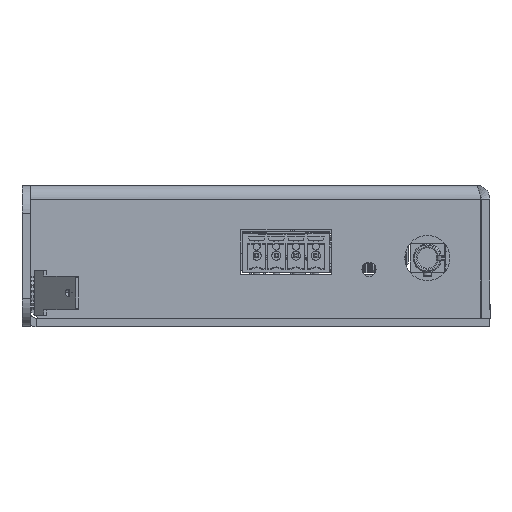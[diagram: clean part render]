
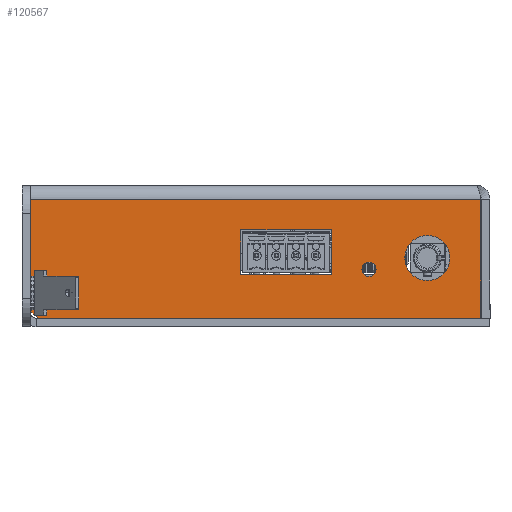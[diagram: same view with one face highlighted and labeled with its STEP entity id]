
A CAD part, left-side view. The second image highlights one B-rep face of the part: STEP entity #120567.
In plain terms, the highlighted planar face has unit normal (-1, 0, 0) as drawn and (0, 1, 0) by its records, which use the part's own axes.
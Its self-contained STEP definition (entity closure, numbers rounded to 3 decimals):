
#18 = CARTESIAN_POINT ( 'NONE',  ( 26.6, 137.7, -15.85 ) ) ;
#74 = CARTESIAN_POINT ( 'NONE',  ( 0.1, 137.7, -2.5 ) ) ;
#329 = CIRCLE ( 'NONE', #132392, 4. ) ;
#406 = CARTESIAN_POINT ( 'NONE',  ( 26.6, 137.7, -7.9 ) ) ;
#722 = CARTESIAN_POINT ( 'NONE',  ( 19.961, 137.7, -16.175 ) ) ;
#1854 = DIRECTION ( 'NONE',  ( 0., 0., 1. ) ) ;
#1878 = AXIS2_PLACEMENT_3D ( 'NONE', #100271, #39074, #110528 ) ;
#2186 = EDGE_CURVE ( 'NONE', #61893, #102152, #14608, .T. ) ;
#2773 = EDGE_CURVE ( 'NONE', #73926, #127029, #57538, .T. ) ;
#4263 = EDGE_LOOP ( 'NONE', ( #87781, #36714, #35913, #47656, #63012 ) ) ;
#5107 = CARTESIAN_POINT ( 'NONE',  ( 80., 137.7, -23.6 ) ) ;
#5878 = LINE ( 'NONE', #28440, #111282 ) ;
#6617 = CARTESIAN_POINT ( 'NONE',  ( 26.6, 137.7, -7.9 ) ) ;
#7387 = ORIENTED_EDGE ( 'NONE', *, *, #125261, .F. ) ;
#7440 = PLANE ( 'NONE',  #76570 ) ;
#8293 = DIRECTION ( 'NONE',  ( 0., 0., -1. ) ) ;
#11427 = AXIS2_PLACEMENT_3D ( 'NONE', #124158, #62978, #1854 ) ;
#13367 = EDGE_CURVE ( 'NONE', #122886, #73926, #63052, .T. ) ;
#14608 = CIRCLE ( 'NONE', #11427, 1.25 ) ;
#14937 = DIRECTION ( 'NONE',  ( 0., 0., -1. ) ) ;
#15340 = VERTEX_POINT ( 'NONE', #45657 ) ;
#23904 = CARTESIAN_POINT ( 'NONE',  ( 0.1, 137.7, -23.6 ) ) ;
#24259 = ORIENTED_EDGE ( 'NONE', *, *, #126982, .F. ) ;
#26519 = CIRCLE ( 'NONE', #76950, 2. ) ;
#28022 = DIRECTION ( 'NONE',  ( 0., -1., 0. ) ) ;
#28440 = CARTESIAN_POINT ( 'NONE',  ( 42.7, 137.7, -7.9 ) ) ;
#29787 = CARTESIAN_POINT ( 'NONE',  ( 26.6, 137.7, -15.85 ) ) ;
#30101 = DIRECTION ( 'NONE',  ( 0., 1., 0. ) ) ;
#30769 = CARTESIAN_POINT ( 'NONE',  ( 42.7, 137.7, -15.85 ) ) ;
#32556 = AXIS2_PLACEMENT_3D ( 'NONE', #89435, #30101, #101501 ) ;
#32634 = CARTESIAN_POINT ( 'NONE',  ( 78., 137.7, -23.6 ) ) ;
#34390 = ORIENTED_EDGE ( 'NONE', *, *, #109784, .F. ) ;
#35773 = VECTOR ( 'NONE', #121096, 1000. ) ;
#35913 = ORIENTED_EDGE ( 'NONE', *, *, #54409, .T. ) ;
#36447 = EDGE_CURVE ( 'NONE', #120412, #63349, #329, .T. ) ;
#36698 = ORIENTED_EDGE ( 'NONE', *, *, #2773, .F. ) ;
#36714 = ORIENTED_EDGE ( 'NONE', *, *, #54604, .T. ) ;
#37637 = FACE_OUTER_BOUND ( 'NONE', #4263, .T. ) ;
#39074 = DIRECTION ( 'NONE',  ( 0., 1., 0. ) ) ;
#39201 = EDGE_LOOP ( 'NONE', ( #34390, #100213 ) ) ;
#40811 = FACE_BOUND ( 'NONE', #109156, .T. ) ;
#43021 = CARTESIAN_POINT ( 'NONE',  ( 9.6, 137.7, -12.9 ) ) ;
#45244 = DIRECTION ( 'NONE',  ( -1., 0., 0. ) ) ;
#45657 = CARTESIAN_POINT ( 'NONE',  ( 80., 137.7, -21.6 ) ) ;
#45796 = CARTESIAN_POINT ( 'NONE',  ( 9.6, 137.7, -16.9 ) ) ;
#47656 = ORIENTED_EDGE ( 'NONE', *, *, #60441, .F. ) ;
#48040 = CARTESIAN_POINT ( 'NONE',  ( 42.7, 137.7, -7.9 ) ) ;
#48335 = CIRCLE ( 'NONE', #1878, 4. ) ;
#48980 = VERTEX_POINT ( 'NONE', #63949 ) ;
#52045 = VECTOR ( 'NONE', #45244, 1000. ) ;
#53302 = DIRECTION ( 'NONE',  ( 0., 0., 1. ) ) ;
#54134 = EDGE_CURVE ( 'NONE', #127029, #88963, #5878, .T. ) ;
#54409 = EDGE_CURVE ( 'NONE', #91825, #64097, #109629, .T. ) ;
#54604 = EDGE_CURVE ( 'NONE', #15340, #91825, #26519, .T. ) ;
#57538 = LINE ( 'NONE', #406, #108667 ) ;
#59989 = DIRECTION ( 'NONE',  ( 0., 1., 0. ) ) ;
#60441 = EDGE_CURVE ( 'NONE', #48980, #64097, #106079, .T. ) ;
#61893 = VERTEX_POINT ( 'NONE', #108814 ) ;
#62978 = DIRECTION ( 'NONE',  ( 0., 1., 0. ) ) ;
#63012 = ORIENTED_EDGE ( 'NONE', *, *, #78487, .F. ) ;
#63052 = LINE ( 'NONE', #18, #87008 ) ;
#63349 = VERTEX_POINT ( 'NONE', #121844 ) ;
#63949 = CARTESIAN_POINT ( 'NONE',  ( 0.1, 137.7, -2.5 ) ) ;
#64097 = VERTEX_POINT ( 'NONE', #23904 ) ;
#64758 = FACE_BOUND ( 'NONE', #39201, .T. ) ;
#70259 = CARTESIAN_POINT ( 'NONE',  ( 80., 137.7, -2.5 ) ) ;
#72702 = ORIENTED_EDGE ( 'NONE', *, *, #54134, .F. ) ;
#73926 = VERTEX_POINT ( 'NONE', #6617 ) ;
#74520 = VERTEX_POINT ( 'NONE', #70259 ) ;
#74932 = EDGE_LOOP ( 'NONE', ( #86683, #7387 ) ) ;
#75650 = CARTESIAN_POINT ( 'NONE',  ( 0., 137.7, -23.6 ) ) ;
#75833 = LINE ( 'NONE', #78488, #126981 ) ;
#76373 = ORIENTED_EDGE ( 'NONE', *, *, #13367, .F. ) ;
#76570 = AXIS2_PLACEMENT_3D ( 'NONE', #89130, #28022, #99394 ) ;
#76950 = AXIS2_PLACEMENT_3D ( 'NONE', #121189, #59989, #131429 ) ;
#78487 = EDGE_CURVE ( 'NONE', #74520, #48980, #86885, .T. ) ;
#78488 = CARTESIAN_POINT ( 'NONE',  ( 42.7, 137.7, -15.85 ) ) ;
#86683 = ORIENTED_EDGE ( 'NONE', *, *, #2186, .F. ) ;
#86885 = LINE ( 'NONE', #110777, #35773 ) ;
#87008 = VECTOR ( 'NONE', #102215, 1000. ) ;
#87781 = ORIENTED_EDGE ( 'NONE', *, *, #111774, .T. ) ;
#88731 = DIRECTION ( 'NONE',  ( -1., 0., 0. ) ) ;
#88963 = VERTEX_POINT ( 'NONE', #30769 ) ;
#89130 = CARTESIAN_POINT ( 'NONE',  ( 80., 137.7, -1.5 ) ) ;
#89435 = CARTESIAN_POINT ( 'NONE',  ( 19.961, 137.7, -14.925 ) ) ;
#91825 = VERTEX_POINT ( 'NONE', #32634 ) ;
#96259 = CIRCLE ( 'NONE', #32556, 1.25 ) ;
#99394 = DIRECTION ( 'NONE',  ( 0., 0., -1. ) ) ;
#100213 = ORIENTED_EDGE ( 'NONE', *, *, #36447, .F. ) ;
#100271 = CARTESIAN_POINT ( 'NONE',  ( 9.6, 137.7, -12.9 ) ) ;
#101501 = DIRECTION ( 'NONE',  ( 0., 0., 1. ) ) ;
#102152 = VERTEX_POINT ( 'NONE', #722 ) ;
#102215 = DIRECTION ( 'NONE',  ( 0., 0., 1. ) ) ;
#106079 = LINE ( 'NONE', #74, #130057 ) ;
#106083 = VECTOR ( 'NONE', #14937, 1000. ) ;
#108667 = VECTOR ( 'NONE', #123148, 1000. ) ;
#108814 = CARTESIAN_POINT ( 'NONE',  ( 19.961, 137.7, -13.675 ) ) ;
#109156 = EDGE_LOOP ( 'NONE', ( #72702, #36698, #76373, #24259 ) ) ;
#109629 = LINE ( 'NONE', #75650, #52045 ) ;
#109784 = EDGE_CURVE ( 'NONE', #63349, #120412, #48335, .T. ) ;
#110528 = DIRECTION ( 'NONE',  ( 0., 0., 1. ) ) ;
#110777 = CARTESIAN_POINT ( 'NONE',  ( 80., 137.7, -2.5 ) ) ;
#111282 = VECTOR ( 'NONE', #8293, 1000. ) ;
#111774 = EDGE_CURVE ( 'NONE', #74520, #15340, #130062, .T. ) ;
#114472 = DIRECTION ( 'NONE',  ( 0., 1., 0. ) ) ;
#119171 = FACE_BOUND ( 'NONE', #74932, .T. ) ;
#120412 = VERTEX_POINT ( 'NONE', #45796 ) ;
#120567 = ADVANCED_FACE ( 'NONE', ( #119171, #40811, #64758, #37637 ), #7440, .F. ) ;
#121096 = DIRECTION ( 'NONE',  ( -1., 0., 0. ) ) ;
#121189 = CARTESIAN_POINT ( 'NONE',  ( 78., 137.7, -21.6 ) ) ;
#121844 = CARTESIAN_POINT ( 'NONE',  ( 9.6, 137.7, -8.9 ) ) ;
#122886 = VERTEX_POINT ( 'NONE', #29787 ) ;
#123148 = DIRECTION ( 'NONE',  ( 1., 0., 0. ) ) ;
#124158 = CARTESIAN_POINT ( 'NONE',  ( 19.961, 137.7, -14.925 ) ) ;
#125261 = EDGE_CURVE ( 'NONE', #102152, #61893, #96259, .T. ) ;
#126982 = EDGE_CURVE ( 'NONE', #88963, #122886, #75833, .T. ) ;
#126981 = VECTOR ( 'NONE', #88731, 1000. ) ;
#127029 = VERTEX_POINT ( 'NONE', #48040 ) ;
#130057 = VECTOR ( 'NONE', #132216, 1000. ) ;
#130062 = LINE ( 'NONE', #5107, #106083 ) ;
#131429 = DIRECTION ( 'NONE',  ( 0., 0., -1. ) ) ;
#132216 = DIRECTION ( 'NONE',  ( 0., 0., -1. ) ) ;
#132392 = AXIS2_PLACEMENT_3D ( 'NONE', #43021, #114472, #53302 ) ;
